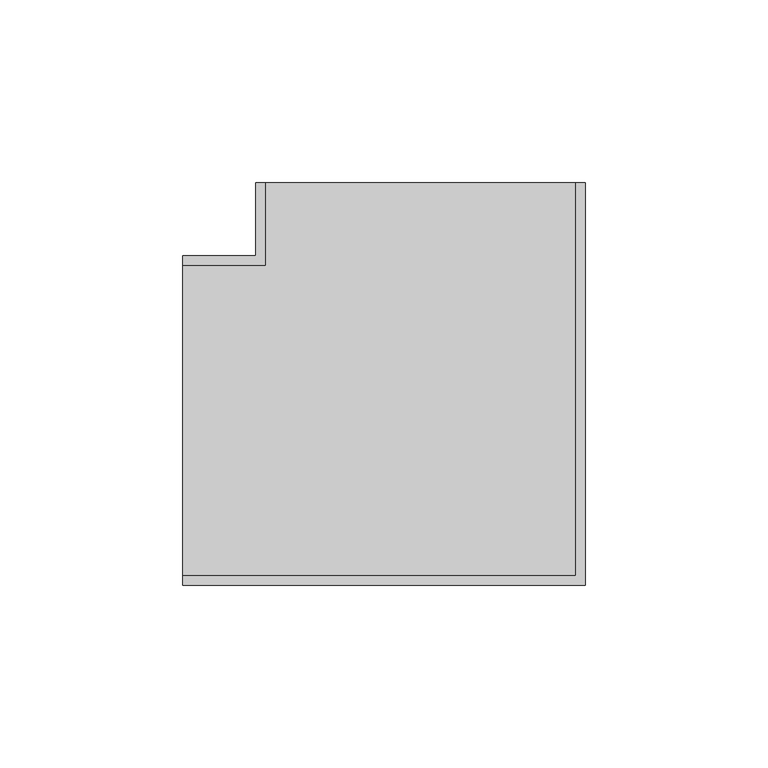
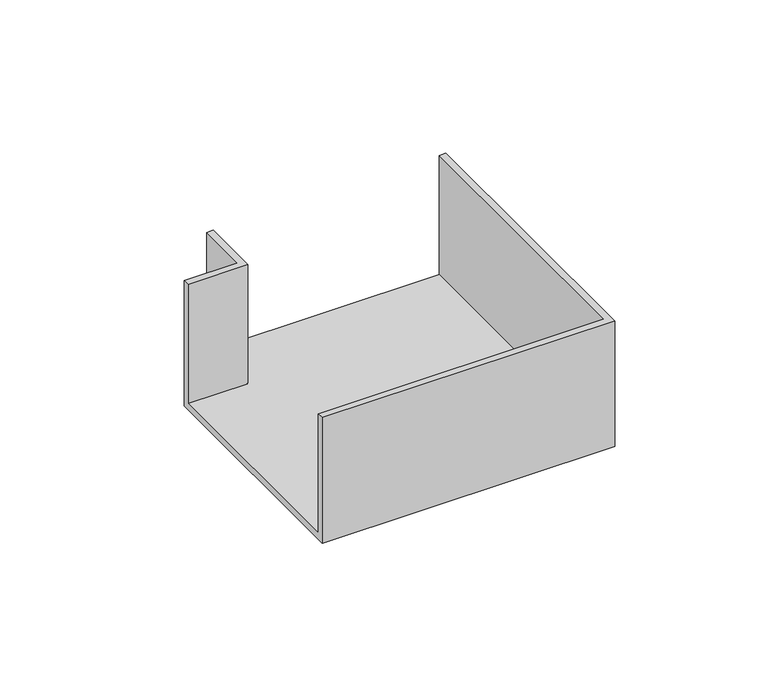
"""IFC4 building model written with IfcOpenShell, lengths in millimetres: cable carrier fitting geometry, КНС_УголПлоский_ILF_DKC : Угол плоский белый."""

from ifc_helpers import new_model, si_unit, origin, place, context, project, spatial, faceted_brep, source, transform, mapped, element, save


def cable_carrier_fitting_19bac6f4(model_context):
    return source(origin(), model_context, "Body", "Brep", [
        faceted_brep([(-65.0, 45.0, -25.0), (-65.0, -45.0, -25.0), (-65.0, -45.0, 25.0), (-65.0, -42.46, 25.0), (-65.0, -42.46, -22.46), (-65.0, 42.46, -22.46), (-65.0, 42.46, 25.0), (-65.0, 45.0, 25.0), (-45.0, 45.0, -25.0), (-45.0, 65.0, -25.0), (45.0, 65.0, -25.0), (45.0, -45.0, -25.0), (45.0, -45.0, 25.0), (45.0, 65.0, 25.0), (42.46, 65.0, 25.0), (42.46, -42.46, 25.0), (42.46, -42.46, -22.46), (42.46, 65.0, -22.46), (-42.46, 65.0, -22.46), (-42.46, 42.46, -22.46), (-42.46, 42.46, 25.0), (-42.46, 65.0, 25.0), (-45.0, 65.0, 25.0), (-45.0, 45.0, 25.0)], [[[0, 1, 2, 3, 4, 5, 6, 7]], [[1, 0, 8, 9, 10, 11]], [[2, 1, 11, 12]], [[3, 2, 12, 13, 14, 15]], [[4, 3, 15, 16]], [[5, 4, 16, 17, 18, 19]], [[6, 5, 19, 20]], [[7, 6, 20, 21, 22, 23]], [[0, 7, 23, 8]], [[9, 22, 21, 18, 17, 14, 13, 10]], [[12, 11, 10, 13]], [[16, 15, 14, 17]], [[20, 19, 18, 21]], [[8, 23, 22, 9]]]),
    ])


if __name__ == "__main__":
    model = new_model("IFC4")
    model_context = context("Model", 3, world=origin())
    ifc_project = project(units=[si_unit("LENGTHUNIT", "METRE", prefix="MILLI")], contexts=[model_context])
    site = spatial("IfcSite", under=ifc_project)
    building = spatial("IfcBuilding", under=site)
    placement = place(None, origin())
    cable_carrier_fitting_shape = cable_carrier_fitting_19bac6f4(model_context)
    element("IfcCableCarrierFitting", 1, ObjectType="КНС_УголПлоский_ILF_DKC : Угол плоский белый", at=placement, inside=building, context=model_context, shape_type="MappedRepresentation", body=[
        mapped(cable_carrier_fitting_shape, transform((0.0, 0.0, 0.0), x_axis=(1.0, 0.0, 0.0), y_axis=(0.0, 1.0, 0.0), z_axis=(0.0, 0.0, 1.0))),
    ])
    save(model, "model.ifc")
